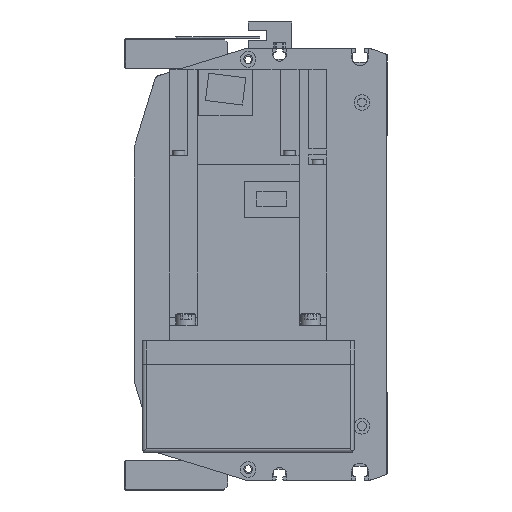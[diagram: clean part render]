
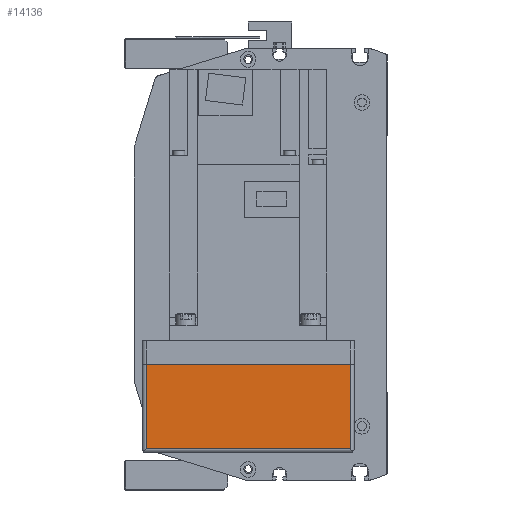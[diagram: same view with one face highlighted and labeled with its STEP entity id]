
A CAD part, left-side view. The second image highlights one B-rep face of the part: STEP entity #14136.
In plain terms, the highlighted planar face has unit normal (-1, 0, 0).
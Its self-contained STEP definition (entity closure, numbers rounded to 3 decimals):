
#2408=ORIENTED_EDGE('',*,*,#5768,.T.);
#2409=ORIENTED_EDGE('',*,*,#5696,.T.);
#2410=ORIENTED_EDGE('',*,*,#5769,.F.);
#2411=ORIENTED_EDGE('',*,*,#5708,.F.);
#5696=EDGE_CURVE('',#7522,#7525,#8988,.T.);
#5708=EDGE_CURVE('',#7532,#7534,#8993,.T.);
#5768=EDGE_CURVE('',#7532,#7522,#9035,.T.);
#5769=EDGE_CURVE('',#7534,#7525,#9036,.T.);
#7522=VERTEX_POINT('',#21955);
#7525=VERTEX_POINT('',#21961);
#7532=VERTEX_POINT('',#21984);
#7534=VERTEX_POINT('',#21987);
#8988=LINE('',#21962,#10329);
#8993=LINE('',#21986,#10334);
#9035=LINE('',#22110,#10376);
#9036=LINE('',#22111,#10377);
#10329=VECTOR('',#17551,1000.);
#10334=VECTOR('',#17578,1000.);
#10376=VECTOR('',#17698,1000.);
#10377=VECTOR('',#17699,1000.);
#11527=EDGE_LOOP('',(#2408,#2409,#2410,#2411));
#12604=FACE_BOUND('',#11527,.T.);
#13519=PLANE('',#15177);
#14136=ADVANCED_FACE('',(#12604),#13519,.T.);
#15177=AXIS2_PLACEMENT_3D('',#22109,#17696,#17697);
#17551=DIRECTION('',(0.,0.,1.));
#17578=DIRECTION('',(0.,0.,1.));
#17696=DIRECTION('',(-1.,0.,0.));
#17697=DIRECTION('',(0.,0.,1.));
#17698=DIRECTION('',(0.,-1.,0.));
#17699=DIRECTION('',(0.,-1.,0.));
#21955=CARTESIAN_POINT('',(-230.,-52.,-55.));
#21961=CARTESIAN_POINT('',(-230.,-52.,-12.));
#21962=CARTESIAN_POINT('',(-230.,-52.,-57.));
#21984=CARTESIAN_POINT('',(-230.,52.,-55.));
#21986=CARTESIAN_POINT('',(-230.,52.,-57.));
#21987=CARTESIAN_POINT('',(-230.,52.,-12.));
#22109=CARTESIAN_POINT('',(-230.,52.,-57.));
#22110=CARTESIAN_POINT('',(-230.,54.,-55.));
#22111=CARTESIAN_POINT('',(-230.,52.,-12.));
